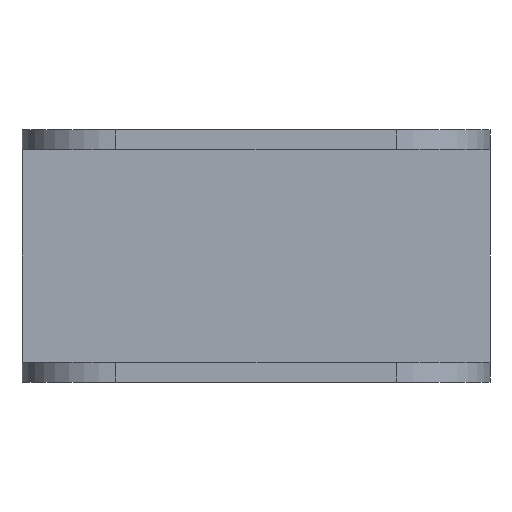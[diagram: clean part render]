
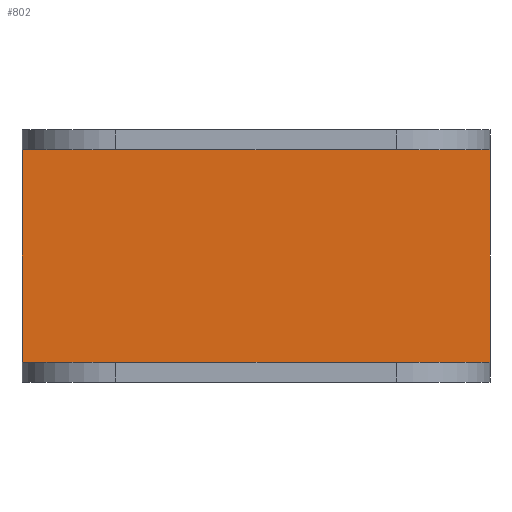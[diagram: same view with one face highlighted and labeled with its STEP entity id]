
A CAD part, front view. The second image highlights one B-rep face of the part: STEP entity #802.
In plain terms, the highlighted planar face has unit normal (0, -1, 0).
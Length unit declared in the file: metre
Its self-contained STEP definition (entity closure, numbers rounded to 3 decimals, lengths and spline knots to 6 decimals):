
#41=LINE('',#1192,#85);
#44=LINE('',#1202,#88);
#64=LINE('',#1249,#108);
#75=LINE('',#1314,#119);
#85=VECTOR('',#950,1.);
#88=VECTOR('',#959,1.);
#108=VECTOR('',#995,1.);
#119=VECTOR('',#1070,1.);
#236=ORIENTED_EDGE('',*,*,#334,.F.);
#237=ORIENTED_EDGE('',*,*,#339,.F.);
#238=ORIENTED_EDGE('',*,*,#391,.T.);
#239=ORIENTED_EDGE('',*,*,#363,.T.);
#334=EDGE_CURVE('',#434,#435,#41,.T.);
#339=EDGE_CURVE('',#439,#434,#44,.T.);
#363=EDGE_CURVE('',#458,#435,#64,.T.);
#391=EDGE_CURVE('',#439,#458,#75,.T.);
#434=VERTEX_POINT('',#1191);
#435=VERTEX_POINT('',#1193);
#439=VERTEX_POINT('',#1203);
#458=VERTEX_POINT('',#1250);
#612=EDGE_LOOP('',(#236,#237,#238,#239));
#714=FACE_BOUND('',#612,.T.);
#776=PLANE('',#885);
#802=ADVANCED_FACE('',(#714),#776,.T.);
#885=AXIS2_PLACEMENT_3D('',#1313,#1068,#1069);
#950=DIRECTION('',(-1.,0.,0.));
#959=DIRECTION('',(0.,0.,-1.));
#995=DIRECTION('',(0.,0.,-1.));
#1068=DIRECTION('',(0.,-1.,0.));
#1069=DIRECTION('',(0.,0.,-1.));
#1070=DIRECTION('',(-1.,0.,0.));
#1191=CARTESIAN_POINT('',(0.075,0.085,0.003175));
#1192=CARTESIAN_POINT('',(0.0375,0.085,0.003175));
#1193=CARTESIAN_POINT('',(0.,0.085,0.003175));
#1202=CARTESIAN_POINT('',(0.075,0.085,0.037275));
#1203=CARTESIAN_POINT('',(0.075,0.085,0.037275));
#1249=CARTESIAN_POINT('',(0.,0.085,0.037275));
#1250=CARTESIAN_POINT('',(0.,0.085,0.037275));
#1313=CARTESIAN_POINT('',(0.0375,0.085,0.037275));
#1314=CARTESIAN_POINT('',(0.0375,0.085,0.037275));
